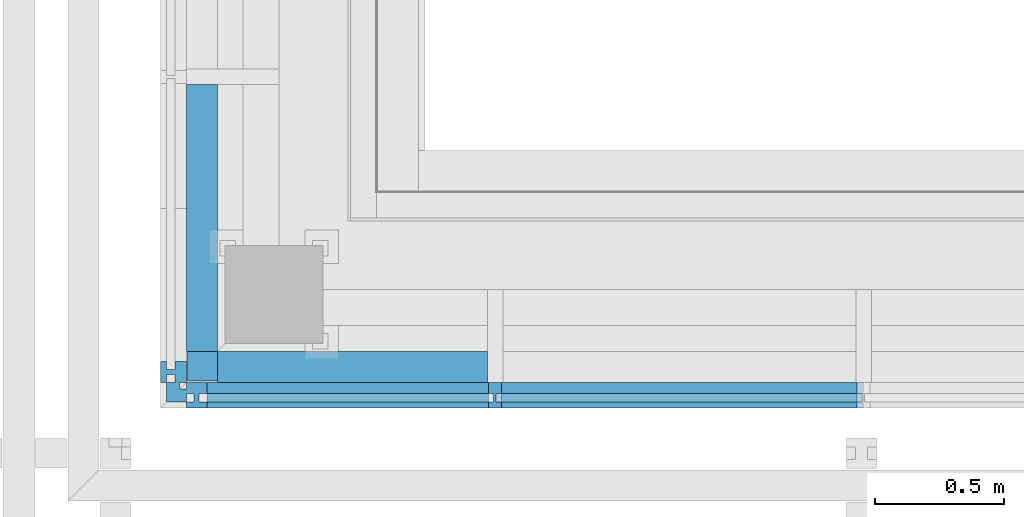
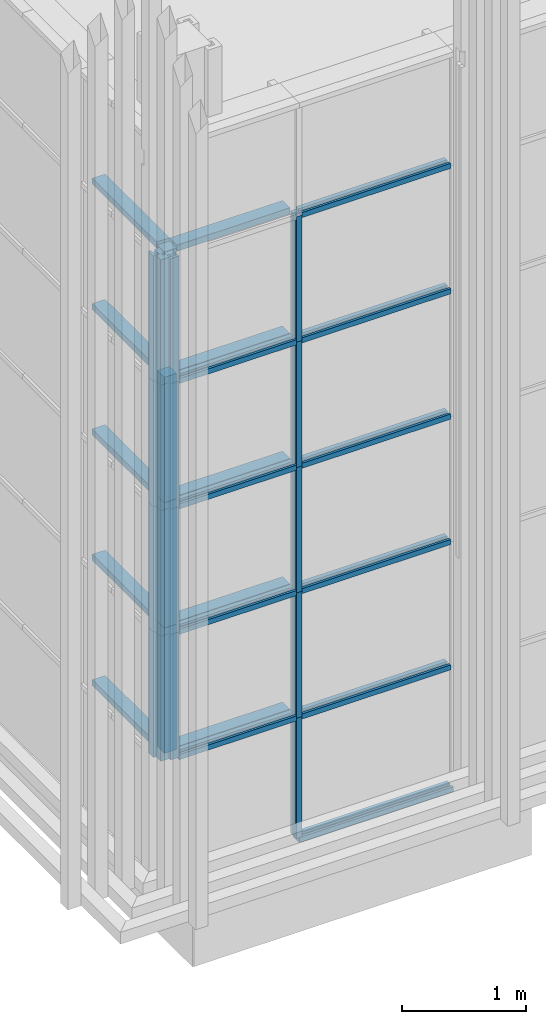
# One storey, part 2 of 260: 33 members, 2 elements without a shape of their own.
"""IFC2X3 building model written with IfcOpenShell, lengths in millimetres."""

from ifc_helpers import new_model, entity, si_unit, converted_unit, derived_unit, money_unit, direction, frame, origin_with_axes, place, context, subcontext, project, spatial, faceted_brep, source, transform, mapped, material, type_object, element, aggregate, save


model = new_model("IFC2X3")

# Units and contexts
model_context = context("Model", 3, precision=0.01, world=origin_with_axes(), true_north=direction((0.0, 1.0)))
body_context = subcontext(model_context, "Body", "Model", "MODEL_VIEW")
ifc_project = project(units=[si_unit("LENGTHUNIT", "METRE", prefix="MILLI"), si_unit("AREAUNIT", "SQUARE_METRE"), si_unit("VOLUMEUNIT", "CUBIC_METRE"), converted_unit("PLANEANGLEUNIT", "DEGREE", entity("IfcPlaneAngleMeasure", 0.0174532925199), si_unit("PLANEANGLEUNIT", "RADIAN"), dimensions=[0, 0, 0, 0, 0, 0, 0]), money_unit("EUR"), converted_unit("TIMEUNIT", "Year", entity("IfcTimeMeasure", 31556926.0), si_unit("TIMEUNIT", "SECOND"), dimensions=[0, 0, 1, 0, 0, 0, 0]), si_unit("MASSUNIT", "GRAM", prefix="KILO"), si_unit("THERMODYNAMICTEMPERATUREUNIT", "DEGREE_CELSIUS"), si_unit("LUMINOUSINTENSITYUNIT", "LUMEN"), si_unit("ENERGYUNIT", "JOULE", prefix="MEGA"), derived_unit("THERMALCONDUCTANCEUNIT", [(si_unit("POWERUNIT", "WATT"), 1), (si_unit("LENGTHUNIT", "METRE"), -1), (si_unit("THERMODYNAMICTEMPERATUREUNIT", "KELVIN"), -1)]), derived_unit("SPECIFICHEATCAPACITYUNIT", [(si_unit("ENERGYUNIT", "JOULE"), 1), (si_unit("MASSUNIT", "GRAM", prefix="KILO"), -1), (si_unit("THERMODYNAMICTEMPERATUREUNIT", "KELVIN"), -1)]), derived_unit("MASSDENSITYUNIT", [(si_unit("MASSUNIT", "GRAM", prefix="KILO"), 1), (si_unit("VOLUMEUNIT", "CUBIC_METRE"), -1)])], contexts=[model_context])

# Site, building, storey
site_placement = place(None, origin_with_axes())
site = spatial("IfcSite", under=ifc_project, at=site_placement, Name="Kolde pst 67a", CompositionType="ELEMENT")
building_placement = place(site_placement, origin_with_axes())
building = spatial("IfcBuilding", under=site, at=building_placement, Name="Riigigümnaasium", CompositionType="ELEMENT")
storey_placement = place(building_placement, origin_with_axes())
storey = spatial("IfcBuildingStorey", under=building, at=storey_placement, Name="1. korrus", CompositionType="ELEMENT", Elevation=0.0)

# Curtain wall, members
curtain_wall_type = type_object("IfcCurtainWallType", Name="Curtain Wall Type", PredefinedType="NOTDEFINED")
curtain_wall_1_placement = place(storey_placement, frame((47829.9854655, 8727.77020058, -0.000749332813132), z_axis=(0.0, 0.0, 1.0), x_axis=(1.0, 0.0, 0.0)))
curtain_wall_1 = element("IfcCurtainWall", 1, at=curtain_wall_1_placement, inside=storey, type_object=curtain_wall_type, Name="KLAASFASSAAD")
ifc_material_1 = material(Name="_METALL - alumiinium")
member_type_1 = type_object("IfcMemberType", Name="Mullion Frame 50 x 100", PredefinedType="MEMBER")
shared_shape_1 = source(origin_with_axes(), body_context, "Body", "Brep", [
    faceted_brep([(5.0, -16.5, 1230.00046362), (5.0, 16.5, 1230.00046362), (25.0, 16.5, 1230.00046362), (25.0, 40.0, 1230.00046362), (-25.0, 40.0, 1230.00046362), (-25.0, 16.5, 1230.00046362), (-5.0, 16.5, 1230.00046362), (-5.0, -16.5, 1230.00046362), (-25.0, -16.5, 1230.00046362), (-25.0, -60.0, 1230.00046362), (25.0, -60.0, 1230.00046362), (25.0, -16.5, 1230.00046362), (5.0, -16.5, 50.0), (5.0, 16.5, 50.0), (25.0, 16.5, 50.0), (25.0, 40.0, 50.0), (-25.0, 40.0, 50.0), (-25.0, 16.5, 50.0), (-5.0, 16.5, 50.0), (-5.0, -16.5, 50.0), (-25.0, -16.5, 50.0), (-25.0, -60.0, 50.0), (25.0, -60.0, 50.0), (25.0, -16.5, 50.0)], [[[0, 1, 2, 3, 4, 5, 6, 7, 8, 9, 10, 11]], [[0, 12, 13, 1]], [[1, 13, 14, 2]], [[14, 15, 3, 2]], [[4, 3, 15, 16]], [[17, 5, 4, 16]], [[5, 17, 18, 6]], [[7, 6, 18, 19]], [[8, 7, 19, 20]], [[8, 20, 21, 9]], [[10, 9, 21, 22]], [[11, 10, 22, 23]], [[11, 23, 12, 0]], [[13, 12, 23, 22, 21, 20, 19, 18, 17, 16, 15, 14]]]),
])
member_1_placement = place(curtain_wall_1_placement, frame((-22742.4150628, 15102.4894543, 0.000285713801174), z_axis=(0.0, 0.0, 1.0), x_axis=(0.999999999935, -1.14108152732e-05, 0.0)))
member_1 = element("IfcMember", 2, at=member_1_placement, type_object=member_type_1, material=ifc_material_1, Name="RF RAAM VERT-143", ObjectType="MEMBER", context=body_context, shape_type="MappedRepresentation", body=[
    mapped(shared_shape_1, transform((0.0, 0.0, 0.0), x_axis=(-1.0, 0.0, 0.0), y_axis=(0.0, -1.0, 0.0), z_axis=(0.0, 0.0, 1.0))),
])
shared_shape_2 = source(origin_with_axes(), body_context, "Body", "Brep", [
    faceted_brep([(5.0, -16.5, 1230.0), (5.0, 16.5, 1230.0), (25.0, 16.5, 1230.0), (25.0, 40.0, 1230.0), (-25.0, 40.0, 1230.0), (-25.0, 16.5, 1230.0), (-5.0, 16.5, 1230.0), (-5.0, -16.5, 1230.0), (-25.0, -16.5, 1230.0), (-25.0, -60.0, 1230.0), (25.0, -60.0, 1230.0), (25.0, -16.5, 1230.0), (5.0, -16.5, 0.0), (5.0, 16.5, 0.0), (25.0, 16.5, 0.0), (25.0, 40.0, 0.0), (-25.0, 40.0, 0.0), (-25.0, 16.5, 0.0), (-5.0, 16.5, 0.0), (-5.0, -16.5, 0.0), (-25.0, -16.5, 0.0), (-25.0, -60.0, 0.0), (25.0, -60.0, 0.0), (25.0, -16.5, 0.0)], [[[0, 1, 2, 3, 4, 5, 6, 7, 8, 9, 10, 11]], [[0, 12, 13, 1]], [[1, 13, 14, 2]], [[14, 15, 3, 2]], [[3, 15, 16, 4]], [[17, 5, 4, 16]], [[5, 17, 18, 6]], [[7, 6, 18, 19]], [[8, 7, 19, 20]], [[8, 20, 21, 9]], [[9, 21, 22, 10]], [[11, 10, 22, 23]], [[11, 23, 12, 0]], [[13, 12, 23, 22, 21, 20, 19, 18, 17, 16, 15, 14]]]),
])
member_2_placement = place(curtain_wall_1_placement, frame((-22742.4150628, 15102.4894543, 1230.00074933), z_axis=(0.0, 0.0, 1.0), x_axis=(0.999999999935, -1.14108152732e-05, 0.0)))
member_2 = element("IfcMember", 3, at=member_2_placement, type_object=member_type_1, material=ifc_material_1, Name="RF RAAM VERT-144", ObjectType="MEMBER", context=body_context, shape_type="MappedRepresentation", body=[
    mapped(shared_shape_2, transform((0.0, 0.0, 0.0), x_axis=(-1.0, 0.0, 0.0), y_axis=(0.0, -1.0, 0.0), z_axis=(0.0, 0.0, 1.0))),
])
member_3_placement = place(curtain_wall_1_placement, frame((-22742.4150628, 15102.4894543, 2460.00074933), z_axis=(0.0, 0.0, 1.0), x_axis=(0.999999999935, -1.14108152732e-05, 0.0)))
member_3 = element("IfcMember", 4, at=member_3_placement, type_object=member_type_1, material=ifc_material_1, Name="RF RAAM VERT-145", ObjectType="MEMBER", context=body_context, shape_type="MappedRepresentation", body=[
    mapped(shared_shape_2, transform((0.0, 0.0, 0.0), x_axis=(-1.0, 0.0, 0.0), y_axis=(0.0, -1.0, 0.0), z_axis=(0.0, 0.0, 1.0))),
])
member_4_placement = place(curtain_wall_1_placement, frame((-22742.4150628, 15102.4894543, 3690.00074933), z_axis=(0.0, 0.0, 1.0), x_axis=(0.999999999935, -1.14108152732e-05, 0.0)))
member_4 = element("IfcMember", 5, at=member_4_placement, type_object=member_type_1, material=ifc_material_1, Name="RF RAAM VERT-146", ObjectType="MEMBER", context=body_context, shape_type="MappedRepresentation", body=[
    mapped(shared_shape_2, transform((0.0, 0.0, 0.0), x_axis=(-1.0, 0.0, 0.0), y_axis=(0.0, -1.0, 0.0), z_axis=(0.0, 0.0, 1.0))),
])
member_5_placement = place(curtain_wall_1_placement, frame((-22742.4150628, 15102.4894543, 4920.00074933), z_axis=(0.0, 0.0, 1.0), x_axis=(0.999999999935, -1.14108152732e-05, 0.0)))
member_5 = element("IfcMember", 6, at=member_5_placement, type_object=member_type_1, material=ifc_material_1, Name="RF RAAM VERT-147", ObjectType="MEMBER", context=body_context, shape_type="MappedRepresentation", body=[
    mapped(shared_shape_2, transform((0.0, 0.0, 0.0), x_axis=(-1.0, 0.0, 0.0), y_axis=(0.0, -1.0, 0.0), z_axis=(0.0, 0.0, 1.0))),
])
member_type_2 = type_object("IfcMemberType", Name="Boundary Frame 50 x 100", PredefinedType="MEMBER")
shared_shape_3 = source(origin_with_axes(), body_context, "Body", "Brep", [
    faceted_brep([(-30.0, -16.5, 1430.0), (-50.0, -16.5, 1430.0), (-50.0, -60.0, 1430.0), (0.0, -60.0, 1430.0), (0.0, 40.0, 1430.0), (-50.0, 40.0, 1430.0), (-50.0, 16.5, 1430.0), (-30.0, 16.5, 1430.0), (-30.0, -16.5, 0.0), (-50.0, -16.5, 0.0), (-50.0, -60.0, 0.0), (0.0, -60.0, 0.0), (0.0, 40.0, 0.0), (-50.0, 40.0, 0.0), (-50.0, 16.5, 0.0), (-30.0, 16.5, 0.0)], [[[0, 1, 2, 3, 4, 5, 6, 7]], [[0, 8, 9, 1]], [[9, 10, 2, 1]], [[10, 11, 3, 2]], [[11, 12, 4, 3]], [[12, 13, 5, 4]], [[6, 5, 13, 14]], [[14, 15, 7, 6]], [[7, 15, 8, 0]], [[8, 15, 14, 13, 12, 11, 10, 9]]]),
])
member_6_placement = place(curtain_wall_1_placement, frame((-21312.4150629, 15102.4731368, 0.000285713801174), z_axis=(-0.999999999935, 1.14108152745e-05, 0.0), x_axis=(0.0, 0.0, 1.0)))
member_6 = element("IfcMember", 7, at=member_6_placement, type_object=member_type_2, material=ifc_material_1, Name="RF RAAM SERV-604", ObjectType="MEMBER", context=body_context, shape_type="MappedRepresentation", body=[
    mapped(shared_shape_3, transform((0.0, 0.0, 0.0), x_axis=(-1.0, 0.0, 0.0), y_axis=(0.0, -1.0, 0.0), z_axis=(0.0, 0.0, 1.0))),
])
member_type_3 = type_object("IfcMemberType", Name="Transom Frame 50 x 100", PredefinedType="MEMBER")
shared_shape_4 = source(origin_with_axes(), body_context, "Body", "Brep", [
    faceted_brep([(5.0, -16.5, 1405.0), (5.0, 16.5, 1405.0), (25.0, 16.5, 1405.0), (25.0, 40.0, 1405.0), (-25.0, 40.0, 1405.0), (-25.0, 16.5, 1405.0), (-5.0, 16.5, 1405.0), (-5.0, -16.5, 1405.0), (-25.0, -16.5, 1405.0), (-25.0, -60.0, 1405.0), (25.0, -60.0, 1405.0), (25.0, -16.5, 1405.0), (5.0, -16.5, 25.0), (5.0, 16.5, 25.0), (25.0, 16.5, 25.0), (25.0, 40.0, 25.0), (-25.0, 40.0, 25.0), (-25.0, 16.5, 25.0), (-5.0, 16.5, 25.0), (-5.0, -16.5, 25.0), (-25.0, -16.5, 25.0), (-25.0, -60.0, 25.0), (25.0, -60.0, 25.0), (25.0, -16.5, 25.0)], [[[0, 1, 2, 3, 4, 5, 6, 7, 8, 9, 10, 11]], [[0, 12, 13, 1]], [[1, 13, 14, 2]], [[14, 15, 3, 2]], [[4, 3, 15, 16]], [[17, 5, 4, 16]], [[5, 17, 18, 6]], [[7, 6, 18, 19]], [[8, 7, 19, 20]], [[8, 20, 21, 9]], [[10, 9, 21, 22]], [[11, 10, 22, 23]], [[11, 23, 12, 0]], [[13, 12, 23, 22, 21, 20, 19, 18, 17, 16, 15, 14]]]),
])
member_7_placement = place(curtain_wall_1_placement, frame((-21312.4150629, 15102.4731368, 1230.00074933), z_axis=(-0.999999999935, 1.14108152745e-05, 0.0), x_axis=(0.0, 0.0, 1.0)))
member_7 = element("IfcMember", 8, at=member_7_placement, type_object=member_type_3, material=ifc_material_1, Name="RF RAAM HOR-040", ObjectType="MEMBER", context=body_context, shape_type="MappedRepresentation", body=[
    mapped(shared_shape_4, transform((0.0, 0.0, 0.0), x_axis=(-1.0, 0.0, 0.0), y_axis=(0.0, -1.0, 0.0), z_axis=(0.0, 0.0, 1.0))),
])
member_8_placement = place(curtain_wall_1_placement, frame((-21312.4150629, 15102.4731368, 2460.00074933), z_axis=(-0.999999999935, 1.14108152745e-05, 0.0), x_axis=(0.0, 0.0, 1.0)))
member_8 = element("IfcMember", 9, at=member_8_placement, type_object=member_type_3, material=ifc_material_1, Name="RF RAAM HOR-057", ObjectType="MEMBER", context=body_context, shape_type="MappedRepresentation", body=[
    mapped(shared_shape_4, transform((0.0, 0.0, 0.0), x_axis=(-1.0, 0.0, 0.0), y_axis=(0.0, -1.0, 0.0), z_axis=(0.0, 0.0, 1.0))),
])
member_9_placement = place(curtain_wall_1_placement, frame((-21312.4150629, 15102.4731368, 3690.00074933), z_axis=(-0.999999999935, 1.14108152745e-05, 0.0), x_axis=(0.0, 0.0, 1.0)))
member_9 = element("IfcMember", 10, at=member_9_placement, type_object=member_type_3, material=ifc_material_1, Name="RF RAAM HOR-074", ObjectType="MEMBER", context=body_context, shape_type="MappedRepresentation", body=[
    mapped(shared_shape_4, transform((0.0, 0.0, 0.0), x_axis=(-1.0, 0.0, 0.0), y_axis=(0.0, -1.0, 0.0), z_axis=(0.0, 0.0, 1.0))),
])
member_10_placement = place(curtain_wall_1_placement, frame((-21312.4150629, 15102.4731368, 4920.00074933), z_axis=(-0.999999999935, 1.14108152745e-05, 0.0), x_axis=(0.0, 0.0, 1.0)))
member_10 = element("IfcMember", 11, at=member_10_placement, type_object=member_type_3, material=ifc_material_1, Name="RF RAAM HOR-091", ObjectType="MEMBER", context=body_context, shape_type="MappedRepresentation", body=[
    mapped(shared_shape_4, transform((0.0, 0.0, 0.0), x_axis=(-1.0, 0.0, 0.0), y_axis=(0.0, -1.0, 0.0), z_axis=(0.0, 0.0, 1.0))),
])
member_11_placement = place(curtain_wall_1_placement, frame((-21312.4150629, 15102.4731368, 6150.00074933), z_axis=(-0.999999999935, 1.14108152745e-05, 0.0), x_axis=(0.0, 0.0, 1.0)))
member_11 = element("IfcMember", 12, at=member_11_placement, type_object=member_type_3, material=ifc_material_1, Name="RF RAAM HOR-108", ObjectType="MEMBER", context=body_context, shape_type="MappedRepresentation", body=[
    mapped(shared_shape_4, transform((0.0, 0.0, 0.0), x_axis=(-1.0, 0.0, 0.0), y_axis=(0.0, -1.0, 0.0), z_axis=(0.0, 0.0, 1.0))),
])
shared_shape_5 = source(origin_with_axes(), body_context, "Body", "Brep", [
    faceted_brep([(5.0, -16.5, 1117.56909149), (5.0, 16.5, 1117.56909149), (25.0, 16.5, 1117.56909149), (25.0, 40.0, 1117.56909149), (-25.0, 40.0, 1117.56909149), (-25.0, 16.5, 1117.56909149), (-5.0, 16.5, 1117.56909149), (-5.0, -16.5, 1117.56909149), (-25.0, -16.5, 1117.56909149), (-25.0, -60.0, 1117.56909149), (25.0, -60.0, 1117.56909149), (25.0, -16.5, 1117.56909149), (5.0, -16.5, 25.0), (5.0, 16.5, 25.0), (25.0, 16.5, 25.0), (25.0, 40.0, 25.0), (-25.0, 40.0, 25.0), (-25.0, 16.5, 25.0), (-5.0, 16.5, 25.0), (-5.0, -16.5, 25.0), (-25.0, -16.5, 25.0), (-25.0, -60.0, 25.0), (25.0, -60.0, 25.0), (25.0, -16.5, 25.0)], [[[0, 1, 2, 3, 4, 5, 6, 7, 8, 9, 10, 11]], [[0, 12, 13, 1]], [[1, 13, 14, 2]], [[14, 15, 3, 2]], [[4, 3, 15, 16]], [[17, 5, 4, 16]], [[5, 17, 18, 6]], [[7, 6, 18, 19]], [[8, 7, 19, 20]], [[8, 20, 21, 9]], [[10, 9, 21, 22]], [[11, 10, 22, 23]], [[11, 23, 12, 0]], [[13, 12, 23, 22, 21, 20, 19, 18, 17, 16, 15, 14]]]),
])
member_12_placement = place(curtain_wall_1_placement, frame((-22742.4150628, 15102.4894543, 4920.00074933), z_axis=(-0.999999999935, 1.1410815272e-05, 0.0), x_axis=(0.0, 0.0, 1.0)))
member_12 = element("IfcMember", 13, at=member_12_placement, type_object=member_type_3, material=ifc_material_1, Name="RF RAAM HOR-129", ObjectType="MEMBER", context=body_context, shape_type="MappedRepresentation", body=[
    mapped(shared_shape_5, transform((0.0, 0.0, 0.0), x_axis=(-1.0, 0.0, 0.0), y_axis=(0.0, -1.0, 0.0), z_axis=(0.0, 0.0, 1.0))),
])
member_13_placement = place(curtain_wall_1_placement, frame((-22742.4150628, 15102.4894543, 3690.00074933), z_axis=(-0.999999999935, 1.1410815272e-05, 0.0), x_axis=(0.0, 0.0, 1.0)))
member_13 = element("IfcMember", 14, at=member_13_placement, type_object=member_type_3, material=ifc_material_1, Name="RF RAAM HOR-130", ObjectType="MEMBER", context=body_context, shape_type="MappedRepresentation", body=[
    mapped(shared_shape_5, transform((0.0, 0.0, 0.0), x_axis=(-1.0, 0.0, 0.0), y_axis=(0.0, -1.0, 0.0), z_axis=(0.0, 0.0, 1.0))),
])
member_14_placement = place(curtain_wall_1_placement, frame((-22742.4150628, 15102.4894543, 2460.00074933), z_axis=(-0.999999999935, 1.1410815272e-05, 0.0), x_axis=(0.0, 0.0, 1.0)))
member_14 = element("IfcMember", 15, at=member_14_placement, type_object=member_type_3, material=ifc_material_1, Name="RF RAAM HOR-131", ObjectType="MEMBER", context=body_context, shape_type="MappedRepresentation", body=[
    mapped(shared_shape_5, transform((0.0, 0.0, 0.0), x_axis=(-1.0, 0.0, 0.0), y_axis=(0.0, -1.0, 0.0), z_axis=(0.0, 0.0, 1.0))),
])
member_15_placement = place(curtain_wall_1_placement, frame((-22742.4150628, 15102.4894543, 1230.00074933), z_axis=(-0.999999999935, 1.1410815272e-05, 0.0), x_axis=(0.0, 0.0, 1.0)))
member_15 = element("IfcMember", 16, at=member_15_placement, type_object=member_type_3, material=ifc_material_1, Name="RF RAAM HOR-132", ObjectType="MEMBER", context=body_context, shape_type="MappedRepresentation", body=[
    mapped(shared_shape_5, transform((0.0, 0.0, 0.0), x_axis=(-1.0, 0.0, 0.0), y_axis=(0.0, -1.0, 0.0), z_axis=(0.0, 0.0, 1.0))),
])
member_type_4 = type_object("IfcMemberType", Name="Corner Frame 80 x 100", PredefinedType="MEMBER")
shared_shape_6 = source(origin_with_axes(), body_context, "Body", "Brep", [
    faceted_brep([(66.114652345, -89.4488834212, 0.0), (89.4491322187, -66.1143157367, 0.0), (89.4491322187, -66.1143157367, 1230.0), (66.114652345, -89.4488834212, 1230.0), (51.9724901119, -75.3067744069, 0.0), (75.3069699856, -51.9722067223, 0.0), (75.3069699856, -51.9722067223, 1230.0), (51.9724901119, -75.3067744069, 1230.0)], [[[0, 1, 2, 3]], [[0, 4, 5, 1]], [[1, 5, 6, 2]], [[3, 2, 6, 7]], [[4, 0, 3, 7]], [[5, 4, 7, 6]]]),
    faceted_brep([(56.5688085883, -141.4212498, 0.0), (87.3278956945, -110.662046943, 0.0), (87.3278956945, -110.662046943, 1230.0), (56.5688085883, -141.4212498, 1230.0), (0.000159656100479, -84.8528137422, 0.0), (30.7592467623, -54.0936108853, 0.0), (30.7592467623, -54.0936108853, 1230.0), (0.000159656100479, -84.8528137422, 1230.0)], [[[0, 1, 2, 3]], [[0, 4, 5, 1]], [[1, 5, 6, 2]], [[3, 2, 6, 7]], [[4, 0, 3, 7]], [[5, 4, 7, 6]]]),
    faceted_brep([(70.7107047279, -14.142002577, 0.0), (54.093726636, -30.7590432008, 0.0), (54.093726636, -30.7590432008, 1230.0), (70.7107047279, -14.142002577, 1230.0), (127.27935366, -70.7104386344, 0.0), (110.662375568, -87.3274792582, 0.0), (110.662375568, -87.3274792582, 1230.0), (127.27935366, -70.7104386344, 1230.0)], [[[0, 1, 2, 3]], [[0, 4, 5, 1]], [[1, 5, 6, 2]], [[3, 2, 6, 7]], [[4, 0, 3, 7]], [[5, 4, 7, 6]]]),
    faceted_brep([(-54.093726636, -30.7590432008, 0.0), (-49.8510939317, -35.0016918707, 0.0), (-49.8510939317, -35.0016918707, 1230.0), (-54.093726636, -30.7590432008, 1230.0), (0.0, 23.3344798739, 0.0), (54.093726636, -30.7590432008, 0.0), (49.8510939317, -35.0016918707, 0.0), (0.0, 14.8492144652, 0.0), (0.0, 14.8492144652, 1230.0), (49.8510939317, -35.0016918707, 1230.0), (54.093726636, -30.7590432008, 1230.0), (0.0, 23.3344798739, 1230.0)], [[[0, 1, 2, 3]], [[0, 4, 5, 6, 7, 1]], [[1, 7, 8, 2]], [[3, 2, 8, 9, 10, 11]], [[4, 0, 3, 11]], [[5, 4, 11, 10]], [[6, 5, 10, 9]], [[7, 6, 9, 8]]]),
    faceted_brep([(-18.7384381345, -57.6291674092, 0.0), (-45.6084452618, -30.7590591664, 0.0), (-45.6084452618, -30.7590591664, 1230.0), (-18.7384381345, -57.6291674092, 1230.0), (0.0, -38.8907997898, 0.0), (18.7384381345, -57.6291674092, 0.0), (45.6084452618, -30.7590591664, 0.0), (49.8510939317, -35.0016918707, 0.0), (18.7384541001, -66.1144487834, 0.0), (0.0, -47.3760651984, 0.0), (-18.7384541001, -66.1144487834, 0.0), (-49.8510939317, -35.0016918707, 0.0), (-49.8510939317, -35.0016918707, 1230.0), (-18.7384541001, -66.1144487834, 1230.0), (0.0, -47.3760651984, 1230.0), (18.7384541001, -66.1144487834, 1230.0), (49.8510939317, -35.0016918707, 1230.0), (45.6084452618, -30.7590591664, 1230.0), (18.7384381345, -57.6291674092, 1230.0), (0.0, -38.8907997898, 1230.0)], [[[0, 1, 2, 3]], [[0, 4, 5, 6, 7, 8, 9, 10, 11, 1]], [[1, 11, 12, 2]], [[3, 2, 12, 13, 14, 15, 16, 17, 18, 19]], [[4, 0, 3, 19]], [[5, 4, 19, 18]], [[6, 5, 18, 17]], [[7, 6, 17, 16]], [[8, 7, 16, 15]], [[9, 8, 15, 14]], [[10, 9, 14, 13]], [[11, 10, 13, 12]]]),
    faceted_brep([(-45.6084452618, -30.7590591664, 0.0), (-18.7384381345, -57.6291674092, 0.0), (-18.7384381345, -57.6291674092, 1230.0), (-45.6084452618, -30.7590591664, 1230.0), (0.0, 14.8492144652, 0.0), (45.6084452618, -30.7590591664, 0.0), (18.7384381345, -57.6291674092, 0.0), (0.0, -38.8907997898, 0.0), (0.0, -38.8907997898, 1230.0), (18.7384381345, -57.6291674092, 1230.0), (45.6084452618, -30.7590591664, 1230.0), (0.0, 14.8492144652, 1230.0)], [[[0, 1, 2, 3]], [[0, 4, 5, 6, 7, 1]], [[1, 7, 8, 2]], [[3, 2, 8, 9, 10, 11]], [[4, 0, 3, 11]], [[5, 4, 11, 10]], [[6, 5, 10, 9]], [[7, 6, 9, 8]]]),
    faceted_brep([(-51.9724901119, -75.3067744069, 0.0), (-75.3069699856, -51.9722067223, 0.0), (-75.3069699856, -51.9722067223, 1230.0), (-51.9724901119, -75.3067744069, 1230.0), (-66.114652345, -89.4488834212, 0.0), (-89.4491322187, -66.1143157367, 0.0), (-89.4491322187, -66.1143157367, 1230.0), (-66.114652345, -89.4488834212, 1230.0)], [[[0, 1, 2, 3]], [[0, 4, 5, 1]], [[1, 5, 6, 2]], [[3, 2, 6, 7]], [[4, 0, 3, 7]], [[5, 4, 7, 6]]]),
    faceted_brep([(-0.000159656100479, -84.8528137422, 0.0), (-30.7592467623, -54.0936108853, 0.0), (-30.7592467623, -54.0936108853, 1230.0), (-0.000159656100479, -84.8528137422, 1230.0), (-56.5688085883, -141.4212498, 0.0), (-87.3278956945, -110.662046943, 0.0), (-87.3278956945, -110.662046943, 1230.0), (-56.5688085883, -141.4212498, 1230.0)], [[[0, 1, 2, 3]], [[0, 4, 5, 1]], [[1, 5, 6, 2]], [[3, 2, 6, 7]], [[4, 0, 3, 7]], [[5, 4, 7, 6]]]),
    faceted_brep([(-127.27935366, -70.7104386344, 0.0), (-110.662375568, -87.3274792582, 0.0), (-110.662375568, -87.3274792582, 1230.0), (-127.27935366, -70.7104386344, 1230.0), (-70.7107047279, -14.142002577, 0.0), (-54.093726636, -30.7590432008, 0.0), (-54.093726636, -30.7590432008, 1230.0), (-70.7107047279, -14.142002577, 1230.0)], [[[0, 1, 2, 3]], [[0, 4, 5, 1]], [[1, 5, 6, 2]], [[3, 2, 6, 7]], [[4, 0, 3, 7]], [[5, 4, 7, 6]]]),
])
member_16_placement = place(curtain_wall_1_placement, frame((-23999.9841542, 15102.5038042, 1230.00074933), z_axis=(0.0, 0.0, 1.0), x_axis=(0.707100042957, -0.707113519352, 0.0)))
member_16 = element("IfcMember", 17, at=member_16_placement, type_object=member_type_4, material=ifc_material_1, Name="RF RAAM NURK-958", ObjectType="MEMBER", context=body_context, shape_type="MappedRepresentation", body=[
    mapped(shared_shape_6, transform((0.0, 0.0, 0.0), x_axis=(-1.0, 0.0, 0.0), y_axis=(0.0, -1.0, 0.0), z_axis=(0.0, 0.0, 1.0))),
])
member_17_placement = place(curtain_wall_1_placement, frame((-23999.9841542, 15102.5038042, 2460.00074933), z_axis=(0.0, 0.0, 1.0), x_axis=(0.707100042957, -0.707113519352, 0.0)))
member_17 = element("IfcMember", 18, at=member_17_placement, type_object=member_type_4, material=ifc_material_1, Name="RF RAAM NURK-959", ObjectType="MEMBER", context=body_context, shape_type="MappedRepresentation", body=[
    mapped(shared_shape_6, transform((0.0, 0.0, 0.0), x_axis=(-1.0, 0.0, 0.0), y_axis=(0.0, -1.0, 0.0), z_axis=(0.0, 0.0, 1.0))),
])
member_18_placement = place(curtain_wall_1_placement, frame((-23999.9841542, 15102.5038042, 3690.00074933), z_axis=(0.0, 0.0, 1.0), x_axis=(0.707100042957, -0.707113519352, 0.0)))
member_18 = element("IfcMember", 19, at=member_18_placement, type_object=member_type_4, material=ifc_material_1, Name="RF RAAM NURK-960", ObjectType="MEMBER", context=body_context, shape_type="MappedRepresentation", body=[
    mapped(shared_shape_6, transform((0.0, 0.0, 0.0), x_axis=(-1.0, 0.0, 0.0), y_axis=(0.0, -1.0, 0.0), z_axis=(0.0, 0.0, 1.0))),
])
member_19_placement = place(curtain_wall_1_placement, frame((-23999.9841542, 15102.5038042, 4920.00074933), z_axis=(0.0, 0.0, 1.0), x_axis=(0.707100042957, -0.707113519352, 0.0)))
member_19 = element("IfcMember", 20, at=member_19_placement, type_object=member_type_4, material=ifc_material_1, Name="RF RAAM NURK-961", ObjectType="MEMBER", context=body_context, shape_type="MappedRepresentation", body=[
    mapped(shared_shape_6, transform((0.0, 0.0, 0.0), x_axis=(-1.0, 0.0, 0.0), y_axis=(0.0, -1.0, 0.0), z_axis=(0.0, 0.0, 1.0))),
])
aggregate(curtain_wall_1, [member_1, member_2, member_3, member_4, member_5, member_6, member_7, member_8, member_9, member_10, member_11, member_12, member_13, member_14, member_15, member_16, member_17, member_18, member_19])

curtain_wall_2_placement = place(storey_placement, frame((23890.0026791, 27220.1832522, -0.000253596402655), z_axis=(0.0, 0.0, 1.0), x_axis=(1.0, 0.0, 0.0)))
curtain_wall_2 = element("IfcCurtainWall", 21, at=curtain_wall_2_placement, inside=storey, type_object=curtain_wall_type, Name="Klaasfassaadi puitkarkass")
ifc_material_2 = material(Name="_KANDETARIND - liimpuit vastavalt EK osale")
member_type_5 = type_object("IfcMemberType", Name="120 x 120", PredefinedType="MULLION")
shared_shape_7 = source(origin_with_axes(), body_context, "Body", "Brep", [
    faceted_brep([(-81.3172798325, -88.388347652, 0.0), (0.0, -169.705627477, 0.0), (0.0, -169.705627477, 1230.0), (-81.3172798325, -88.388347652, 1230.0), (0.0, -7.07106781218, 0.0), (81.3172798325, -88.388347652, 0.0), (81.3172798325, -88.388347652, 1230.0), (0.0, -7.07106781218, 1230.0)], [[[0, 1, 2, 3]], [[0, 4, 5, 1]], [[1, 5, 6, 2]], [[3, 2, 6, 7]], [[4, 0, 3, 7]], [[5, 4, 7, 6]]]),
])
member_20_placement = place(curtain_wall_2_placement, frame((-1.70701603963e-05, -3330.16844724, 4920.0002536), z_axis=(0.0, 0.0, 1.0), x_axis=(0.707106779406, -0.707106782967, 0.0)))
member_20 = element("IfcMember", 22, at=member_20_placement, type_object=member_type_5, material=ifc_material_2, Name="RF RAAM NURK-855", ObjectType="MULLION", context=body_context, shape_type="MappedRepresentation", body=[
    mapped(shared_shape_7, transform((0.0, 0.0, 0.0), x_axis=(-1.0, 0.0, 0.0), y_axis=(0.0, -1.0, 0.0), z_axis=(0.0, 0.0, 1.0))),
])
member_21_placement = place(curtain_wall_2_placement, frame((-1.70701603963e-05, -3330.16844724, 3690.0002536), z_axis=(0.0, 0.0, 1.0), x_axis=(0.707106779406, -0.707106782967, 0.0)))
member_21 = element("IfcMember", 23, at=member_21_placement, type_object=member_type_5, material=ifc_material_2, Name="RF RAAM NURK-854", ObjectType="MULLION", context=body_context, shape_type="MappedRepresentation", body=[
    mapped(shared_shape_7, transform((0.0, 0.0, 0.0), x_axis=(-1.0, 0.0, 0.0), y_axis=(0.0, -1.0, 0.0), z_axis=(0.0, 0.0, 1.0))),
])
member_22_placement = place(curtain_wall_2_placement, frame((-1.70701603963e-05, -3330.16844724, 2460.0002536), z_axis=(0.0, 0.0, 1.0), x_axis=(0.707106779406, -0.707106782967, 0.0)))
member_22 = element("IfcMember", 24, at=member_22_placement, type_object=member_type_5, material=ifc_material_2, Name="RF RAAM NURK-853", ObjectType="MULLION", context=body_context, shape_type="MappedRepresentation", body=[
    mapped(shared_shape_7, transform((0.0, 0.0, 0.0), x_axis=(-1.0, 0.0, 0.0), y_axis=(0.0, -1.0, 0.0), z_axis=(0.0, 0.0, 1.0))),
])
member_23_placement = place(curtain_wall_2_placement, frame((-1.70701603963e-05, -3330.16844724, 1230.0002536), z_axis=(0.0, 0.0, 1.0), x_axis=(0.707106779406, -0.707106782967, 0.0)))
member_23 = element("IfcMember", 25, at=member_23_placement, type_object=member_type_5, material=ifc_material_2, Name="RF RAAM NURK-852", ObjectType="MULLION", context=body_context, shape_type="MappedRepresentation", body=[
    mapped(shared_shape_7, transform((0.0, 0.0, 0.0), x_axis=(-1.0, 0.0, 0.0), y_axis=(0.0, -1.0, 0.0), z_axis=(0.0, 0.0, 1.0))),
])
member_type_6 = type_object("IfcMemberType", Name="Transom Frame 60 x 120", PredefinedType="MEMBER")
shared_shape_8 = source(origin_with_axes(), body_context, "Body", "Brep", [
    faceted_brep([(-30.0, 0.0, 30.0), (-30.0, -120.0, 30.0), (-30.0, -120.0, 1079.37707279), (-30.0, 0.0, 1079.37707279), (30.0, 0.0, 30.0), (30.0, -120.0, 30.0), (30.0, -120.0, 1079.37707279), (30.0, 0.0, 1079.37707279)], [[[0, 1, 2, 3]], [[1, 0, 4, 5]], [[1, 5, 6, 2]], [[2, 6, 7, 3]], [[4, 0, 3, 7]], [[5, 4, 7, 6]]]),
])
member_24_placement = place(curtain_wall_2_placement, frame((1199.37705572, -3330.16844713, 6150.0002536), z_axis=(-1.0, 0.0, 0.0), x_axis=(0.0, 0.0, 1.0)))
member_24 = element("IfcMember", 26, at=member_24_placement, type_object=member_type_6, material=ifc_material_2, Name="RF RAAM HOR-648", ObjectType="MEMBER", context=body_context, shape_type="MappedRepresentation", body=[
    mapped(shared_shape_8, transform((0.0, 0.0, 0.0), x_axis=(-1.0, 0.0, 0.0), y_axis=(0.0, -1.0, 0.0), z_axis=(0.0, 0.0, 1.0))),
])
member_25_placement = place(curtain_wall_2_placement, frame((1199.37705572, -3330.16844713, 4920.0002536), z_axis=(-1.0, 0.0, 0.0), x_axis=(0.0, 0.0, 1.0)))
member_25 = element("IfcMember", 27, at=member_25_placement, type_object=member_type_6, material=ifc_material_2, Name="RF RAAM HOR-648", ObjectType="MEMBER", context=body_context, shape_type="MappedRepresentation", body=[
    mapped(shared_shape_8, transform((0.0, 0.0, 0.0), x_axis=(-1.0, 0.0, 0.0), y_axis=(0.0, -1.0, 0.0), z_axis=(0.0, 0.0, 1.0))),
])
member_26_placement = place(curtain_wall_2_placement, frame((1199.37705572, -3330.16844713, 3690.0002536), z_axis=(-1.0, 0.0, 0.0), x_axis=(0.0, 0.0, 1.0)))
member_26 = element("IfcMember", 28, at=member_26_placement, type_object=member_type_6, material=ifc_material_2, Name="RF RAAM HOR-648", ObjectType="MEMBER", context=body_context, shape_type="MappedRepresentation", body=[
    mapped(shared_shape_8, transform((0.0, 0.0, 0.0), x_axis=(-1.0, 0.0, 0.0), y_axis=(0.0, -1.0, 0.0), z_axis=(0.0, 0.0, 1.0))),
])
member_27_placement = place(curtain_wall_2_placement, frame((1199.37705572, -3330.16844713, 2460.0002536), z_axis=(-1.0, 0.0, 0.0), x_axis=(0.0, 0.0, 1.0)))
member_27 = element("IfcMember", 29, at=member_27_placement, type_object=member_type_6, material=ifc_material_2, Name="RF RAAM HOR-648", ObjectType="MEMBER", context=body_context, shape_type="MappedRepresentation", body=[
    mapped(shared_shape_8, transform((0.0, 0.0, 0.0), x_axis=(-1.0, 0.0, 0.0), y_axis=(0.0, -1.0, 0.0), z_axis=(0.0, 0.0, 1.0))),
])
member_28_placement = place(curtain_wall_2_placement, frame((1199.37705572, -3330.16844713, 1230.0002536), z_axis=(-1.0, 0.0, 0.0), x_axis=(0.0, 0.0, 1.0)))
member_28 = element("IfcMember", 30, at=member_28_placement, type_object=member_type_6, material=ifc_material_2, Name="RF RAAM HOR-648", ObjectType="MEMBER", context=body_context, shape_type="MappedRepresentation", body=[
    mapped(shared_shape_8, transform((0.0, 0.0, 0.0), x_axis=(-1.0, 0.0, 0.0), y_axis=(0.0, -1.0, 0.0), z_axis=(0.0, 0.0, 1.0))),
])
shared_shape_9 = source(origin_with_axes(), body_context, "Body", "Brep", [
    faceted_brep([(-30.0, 0.0, 120.0), (-30.0, -120.0, 120.0), (-30.0, -120.0, 1155.16844724), (-30.0, 0.0, 1155.16844724), (30.0, 0.0, 120.0), (30.0, -120.0, 120.0), (30.0, -120.0, 1155.16844724), (30.0, 0.0, 1155.16844724)], [[[0, 1, 2, 3]], [[1, 0, 4, 5]], [[1, 5, 6, 2]], [[2, 6, 7, 3]], [[4, 0, 3, 7]], [[5, 4, 7, 6]]]),
])
member_29_placement = place(curtain_wall_2_placement, frame((-1.70701603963e-05, -3330.16844724, 6150.0002536), z_axis=(5.12591514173e-09, 1.0, 0.0), x_axis=(0.0, 0.0, 1.0)))
member_29 = element("IfcMember", 31, at=member_29_placement, type_object=member_type_6, material=ifc_material_2, Name="RF RAAM HOR-648", ObjectType="MEMBER", context=body_context, shape_type="MappedRepresentation", body=[
    mapped(shared_shape_9, transform((0.0, 0.0, 0.0), x_axis=(-1.0, 0.0, 0.0), y_axis=(0.0, -1.0, -5.12591501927e-09), z_axis=(0.0, -5.12591501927e-09, 1.0))),
])
member_30_placement = place(curtain_wall_2_placement, frame((-1.70701603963e-05, -3330.16844724, 4920.0002536), z_axis=(5.12591514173e-09, 1.0, 0.0), x_axis=(0.0, 0.0, 1.0)))
member_30 = element("IfcMember", 32, at=member_30_placement, type_object=member_type_6, material=ifc_material_2, Name="RF RAAM HOR-648", ObjectType="MEMBER", context=body_context, shape_type="MappedRepresentation", body=[
    mapped(shared_shape_9, transform((0.0, 0.0, 0.0), x_axis=(-1.0, 0.0, 0.0), y_axis=(0.0, -1.0, -5.12591501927e-09), z_axis=(0.0, -5.12591501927e-09, 1.0))),
])
member_31_placement = place(curtain_wall_2_placement, frame((-1.70701603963e-05, -3330.16844724, 3690.0002536), z_axis=(5.12591514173e-09, 1.0, 0.0), x_axis=(0.0, 0.0, 1.0)))
member_31 = element("IfcMember", 33, at=member_31_placement, type_object=member_type_6, material=ifc_material_2, Name="RF RAAM HOR-648", ObjectType="MEMBER", context=body_context, shape_type="MappedRepresentation", body=[
    mapped(shared_shape_9, transform((0.0, 0.0, 0.0), x_axis=(-1.0, 0.0, 0.0), y_axis=(0.0, -1.0, -5.12591501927e-09), z_axis=(0.0, -5.12591501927e-09, 1.0))),
])
member_32_placement = place(curtain_wall_2_placement, frame((-1.70701603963e-05, -3330.16844724, 2460.0002536), z_axis=(5.12591514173e-09, 1.0, 0.0), x_axis=(0.0, 0.0, 1.0)))
member_32 = element("IfcMember", 34, at=member_32_placement, type_object=member_type_6, material=ifc_material_2, Name="RF RAAM HOR-648", ObjectType="MEMBER", context=body_context, shape_type="MappedRepresentation", body=[
    mapped(shared_shape_9, transform((0.0, 0.0, 0.0), x_axis=(-1.0, 0.0, 0.0), y_axis=(0.0, -1.0, -5.12591501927e-09), z_axis=(0.0, -5.12591501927e-09, 1.0))),
])
member_33_placement = place(curtain_wall_2_placement, frame((-1.70701603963e-05, -3330.16844724, 1230.0002536), z_axis=(5.12591514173e-09, 1.0, 0.0), x_axis=(0.0, 0.0, 1.0)))
member_33 = element("IfcMember", 35, at=member_33_placement, type_object=member_type_6, material=ifc_material_2, Name="RF RAAM HOR-648", ObjectType="MEMBER", context=body_context, shape_type="MappedRepresentation", body=[
    mapped(shared_shape_9, transform((0.0, 0.0, 0.0), x_axis=(-1.0, 0.0, 0.0), y_axis=(0.0, -1.0, -5.12591501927e-09), z_axis=(0.0, -5.12591501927e-09, 1.0))),
])
aggregate(curtain_wall_2, [member_20, member_21, member_22, member_23, member_24, member_25, member_26, member_29, member_30, member_31, member_32, member_33, member_27, member_28])

save(model, "model.ifc")
